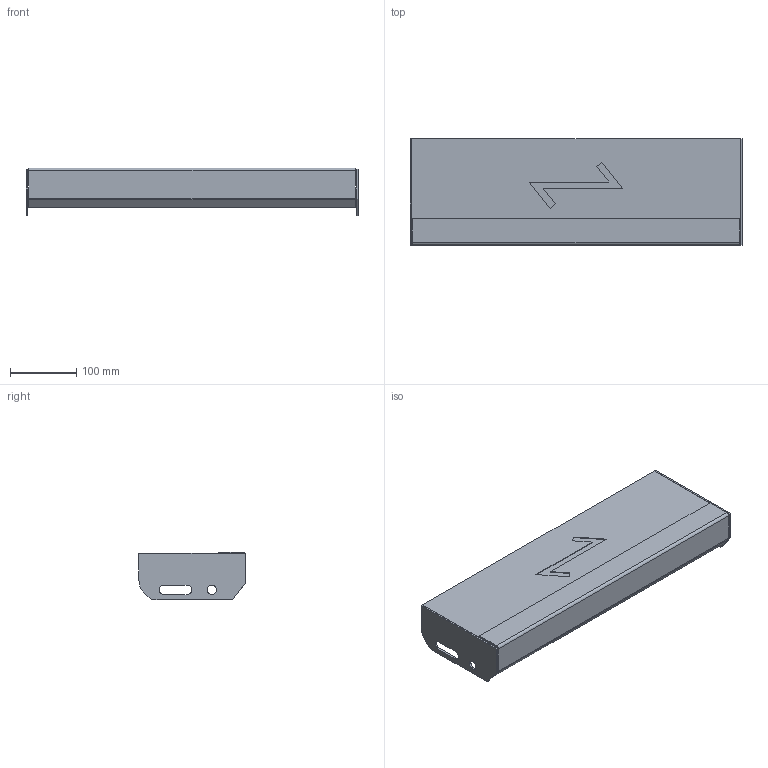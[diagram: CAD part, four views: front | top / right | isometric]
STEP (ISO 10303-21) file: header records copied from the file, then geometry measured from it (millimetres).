
FILE_DESCRIPTION (( 'STEP AP203' ), '1' );
FILE_NAME ('StegTH6-S-nya_steget-500x160.STEP', '2020-03-04T07:41:01', ( '' ), ( '' ), 'SwSTEP 2.0', 'SolidWorks 2019', '' );
FILE_SCHEMA (( 'CONFIG_CONTROL_DESIGN' ));
Length unit declared in the file: millimetre
Products named in the file (5): StegTH6-S-nya_steget-500x160; SW0000039237; SW0000038761; SW0000038696; SW0000039349
Assembly tree (5 placements, depth 3):
  StegTH6-S-nya_steget-500x160
    SW0000039349
      SW0000038761
      SW0000039237
      SW0000038696  x2
Bounding box: 500 x 160 x 72 mm (x, y, z)
Volume: 1537615.2 mm3; surface area: 306471.6 mm2
Topology: 4 solids, 4 shells, 67 faces, 158 edges, 100 vertices
Faces by surface type: plane 51, cylinder 16
Entity records: 2002 total; most frequent: DIRECTION 261, CARTESIAN_POINT 254, ORIENTED_EDGE 238, EDGE_CURVE 119, LINE 99, VECTOR 99, AXIS2_PLACEMENT_3D 81, VERTEX_POINT 74
